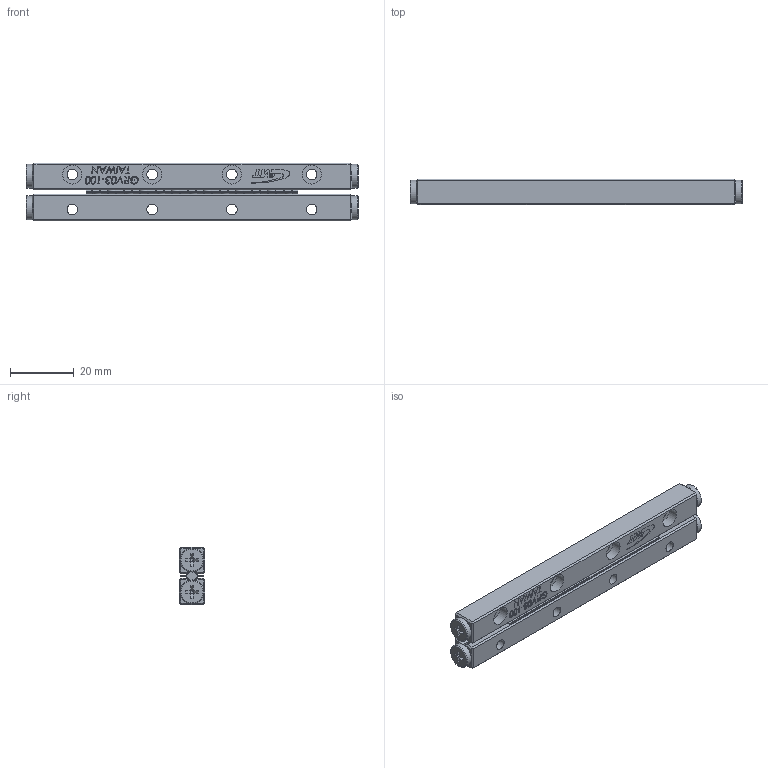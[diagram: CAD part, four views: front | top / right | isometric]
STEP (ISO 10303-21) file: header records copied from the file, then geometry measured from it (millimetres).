
FILE_DESCRIPTION (( 'STEP AP203' ), '1' );
FILE_NAME ('GRV03-100.STEP', '2023-10-11T08:59:13', ( '' ), ( '' ), 'SwSTEP 2.0', 'SolidWorks 2019', '' );
FILE_SCHEMA (( 'CONFIG_CONTROL_DESIGN' ));
Length unit declared in the file: millimetre
Products named in the file (3): GRV03-100; GRVP03-100-模糊化保持器組; GRV03-100-模糊化軌道
Assembly tree (3 placements, depth 2):
  GRV03-100
    GRV03-100-模糊化軌道  x2
    GRVP03-100-模糊化保持器組
Bounding box: 104 x 8 x 18 mm (x, y, z)
Volume: 12511.8 mm3; surface area: 9481.7 mm2
Topology: 3 solids, 3 shells, 920 faces, 2276 edges, 1464 vertices
Faces by surface type: plane 616, bspline 134, cylinder 100, cone 36, torus 34
Full cylindrical faces by diameter (mm): 3.3 x8, 6 x8, 7.5 x4
Entity records: 20931 total; most frequent: CARTESIAN_POINT 7691, ORIENTED_EDGE 2800, DIRECTION 2332, EDGE_CURVE 1400, VECTOR 922, LINE 922, VERTEX_POINT 914, AXIS2_PLACEMENT_3D 705
